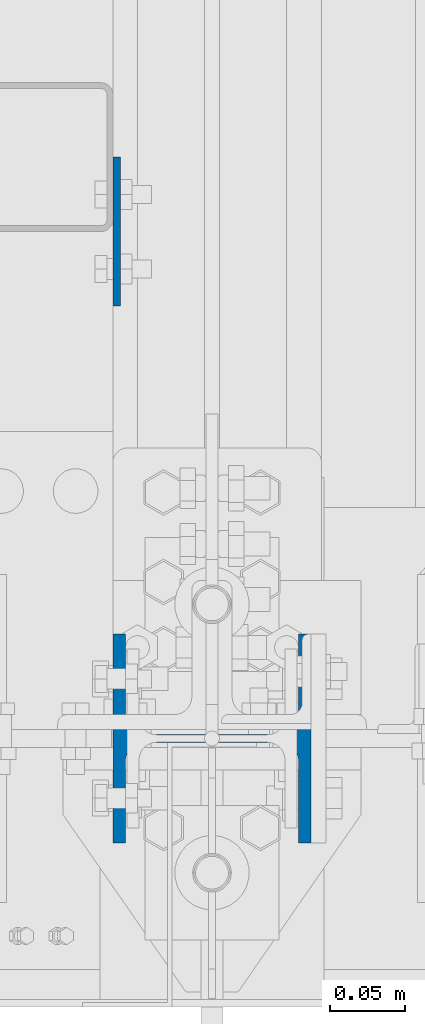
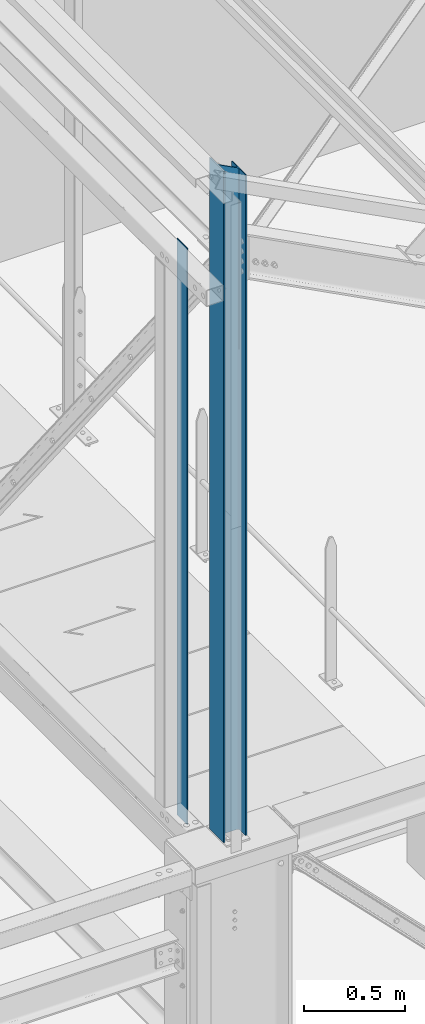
# One storey, part 2 of 362: 2 columns, 2 elements without a shape of their own.
"""IFC2X3 building model written with IfcOpenShell, lengths in millimetres."""

from ifc_helpers import new_model, si_unit, frame, origin_with_axes, origin_2d_with_axis, place, context, subcontext, project, spatial, rectangle, i_section, extrude, clip, halfspace, material, type_object, element, aggregate, save


model = new_model("IFC2X3")

# Units and contexts
model_context = context("Model", 3, precision=1e-05, world=origin_with_axes())
body_context = subcontext(model_context, "Body", "Model", "MODEL_VIEW")
ifc_project = project(units=[si_unit("LENGTHUNIT", "METRE", prefix="MILLI"), si_unit("AREAUNIT", "SQUARE_METRE"), si_unit("VOLUMEUNIT", "CUBIC_METRE"), si_unit("MASSUNIT", "GRAM", prefix="KILO"), si_unit("TIMEUNIT", "SECOND"), si_unit("PLANEANGLEUNIT", "RADIAN"), si_unit("SOLIDANGLEUNIT", "STERADIAN"), si_unit("THERMODYNAMICTEMPERATUREUNIT", "DEGREE_CELSIUS"), si_unit("LUMINOUSINTENSITYUNIT", "LUMEN")], contexts=[model_context])

# Site, building, storey
site_placement = place(None, origin_with_axes())
site = spatial("IfcSite", under=ifc_project, at=site_placement, Name="Undefined", CompositionType="ELEMENT")
building_placement = place(site_placement, origin_with_axes())
building = spatial("IfcBuilding", under=site, at=building_placement, Name="Undefined", CompositionType="ELEMENT")
storey_placement = place(building_placement, origin_with_axes())
storey = spatial("IfcBuildingStorey", under=building, at=storey_placement, Name="Undefined", CompositionType="ELEMENT", Elevation=0.0)

# Assembly, column
assembly_1_placement = place(storey_placement, origin_with_axes())
assembly_1 = element("IfcElementAssembly", 1, at=assembly_1_placement, inside=storey, Name="MONTANT", AssemblyPlace="NOTDEFINED", PredefinedType="NOTDEFINED")
ifc_material_1 = material(Name="Undefined/S275-E28")
column_type_1 = type_object("IfcColumnType", Name="HEA140", PredefinedType="NOTDEFINED")
column_1_placement = place(assembly_1_placement, frame((12680.0, 0.0, 8560.0), z_axis=(0.0, 0.0, 1.0), x_axis=(-1.0, 0.0, 0.0)))
column_1 = element("IfcColumn", 2, at=column_1_placement, type_object=column_type_1, material=ifc_material_1, Name="MONTANT", ObjectType="HEA140", context=body_context, shape_type="Clipping", body=[
    clip(extrude(i_section(OverallWidth=140.0, OverallDepth=133.0, WebThickness=5.5, FlangeThickness=8.5, FilletRadius=12.0, at=origin_2d_with_axis()), frame((0.0, 0.0, 4053.83), z_axis=(0.0, 0.0, -1.0), x_axis=(0.0, 1.0, 0.0)), (0.0, 0.0, 1.0), 4053.83), halfspace(frame((-66.5, 70.0, 3972.97130380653), z_axis=(-0.463528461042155, -7.08866187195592e-09, 0.886082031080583), x_axis=(0.886082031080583, 0.0, 0.463528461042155)), False)),
])
aggregate(assembly_1, [column_1])

assembly_2_placement = place(storey_placement, origin_with_axes())
assembly_2 = element("IfcElementAssembly", 3, at=assembly_2_placement, inside=storey, Name="MONTANT", AssemblyPlace="NOTDEFINED", PredefinedType="NOTDEFINED")
ifc_material_2 = material(Name="Undefined/S235-E24")
column_type_2 = type_object("IfcColumnType", Name="PL100*5", PredefinedType="NOTDEFINED")
column_2_placement = place(assembly_2_placement, frame((12616.000107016, 339.9999987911, 8450.0), z_axis=(0.0, 0.0, 1.0), x_axis=(0.0, -1.0, 0.0)))
column_2 = element("IfcColumn", 4, at=column_2_placement, type_object=column_type_2, material=ifc_material_2, Name="FEUILLURE", ObjectType="PL100*5", context=body_context, shape_type="SweptSolid", body=[
    extrude(rectangle(XDim=5.0, YDim=100.0, at=origin_2d_with_axis()), frame((0.0, 0.0, 3470.0), z_axis=(0.0, 0.0, -1.0), x_axis=(0.0, 1.0, 0.0)), (0.0, 0.0, 1.0), 3470.0),
])
aggregate(assembly_2, [column_2])

save(model, "model.ifc")
